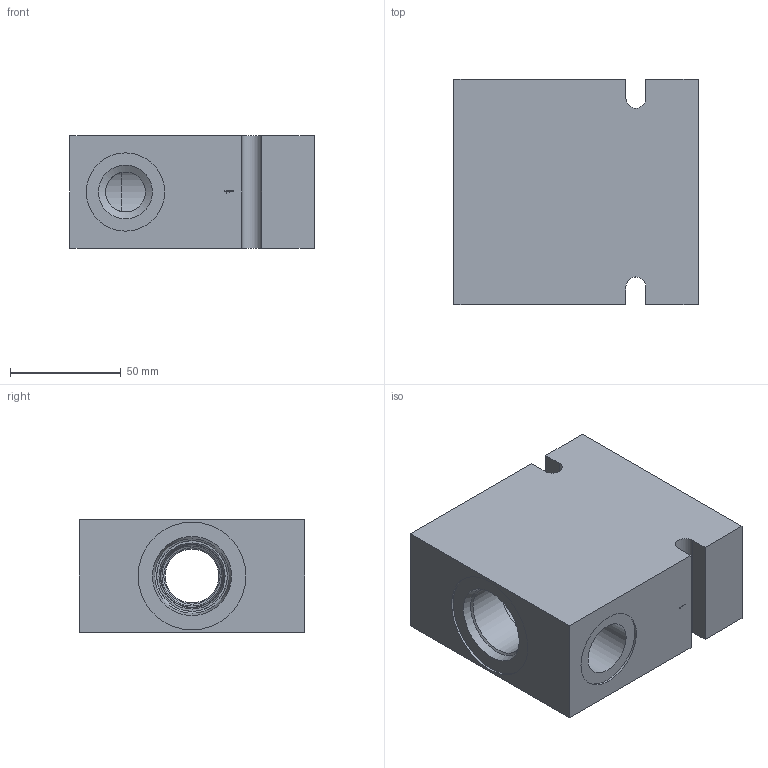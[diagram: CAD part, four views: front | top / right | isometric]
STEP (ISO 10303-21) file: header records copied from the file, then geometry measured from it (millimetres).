
FILE_DESCRIPTION( ( 'Unknown' ), '1' );
FILE_NAME( 'G:/Graphic Design/Graphic Design 2/Data Sheets/Delta Bodies/DRAWINGS/B-DSKD3.stp', 'Unknown', ( 'Unknown' ), ( 'Unknown' ), 'PSStep 16.0.42', 'Unknown', ' ' );
FILE_SCHEMA( ( 'AUTOMOTIVE_DESIGN { 1 0 10303 214 1 1 1 1 }' ) );
Length unit declared in the file: millimetre
Products named in the file (2): Assem1; B-DSKD3
Assembly tree (1 placements, depth 2):
  Assem1
    B-DSKD3
Bounding box: 110 x 101.6 x 50.8 mm (x, y, z)
Surface area: 58328.9 mm2 (no closed solid volume)
Topology: 0 solids, 123 shells, 123 faces, 603 edges, 574 vertices
Faces by surface type: plane 92, cylinder 23, cone 8
Full cylindrical faces by diameter (mm): 0.2 x3, 15 x1, 18 x1, 24.3 x6, 25.4 x1, 27.051 x1, 28.6 x1, 28.651 x1, 31.806 x2, 35.33 x3, 48.514 x1
Entity records: 6772 total; most frequent: CARTESIAN_POINT 1889, DIRECTION 624, ORIENTED_EDGE 560, EDGE_CURVE 560, VERTEX_POINT 560, B_SPLINE_CURVE_WITH_KNOTS 274, AXIS2_PLACEMENT_3D 213, LINE 198
